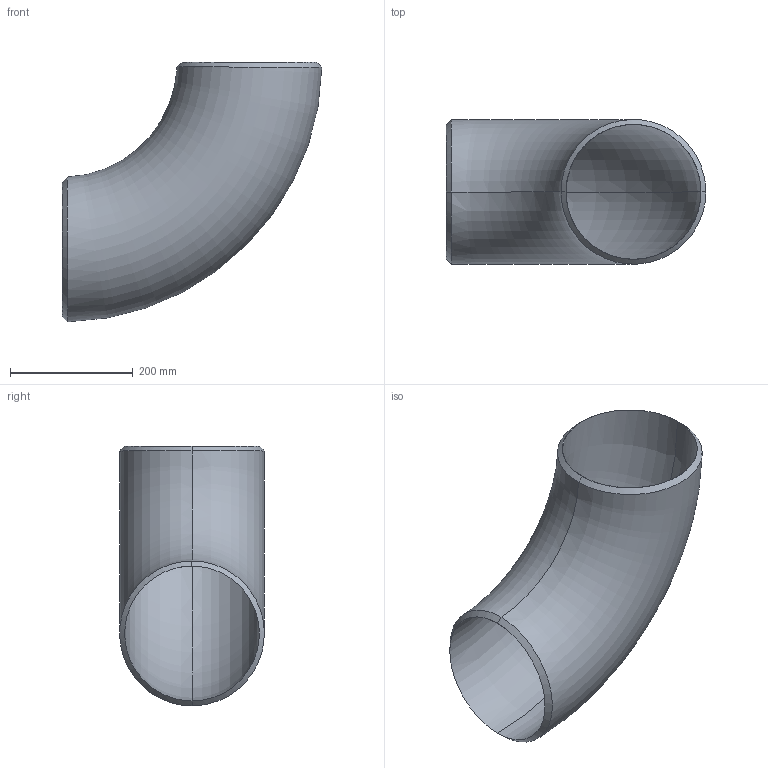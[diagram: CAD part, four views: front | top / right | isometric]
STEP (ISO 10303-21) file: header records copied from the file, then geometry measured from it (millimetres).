
FILE_DESCRIPTION (( 'STEP AP203' ), '1' );
FILE_NAME ('3D_R2651_8X40S_173421280.STEP', '2024-08-22T09:12:55', ( '' ), ( '' ), 'SwSTEP 2.0', 'SolidWorks 2024', '' );
FILE_SCHEMA (( 'CONFIG_CONTROL_DESIGN' ));
Length unit declared in the file: millimetre
Products named in the file (1): 3D_R2651_8X40S_173421280
Bounding box: 422.45 x 235.37 x 422.44 mm (x, y, z)
Volume: 2732422.5 mm3; surface area: 686989.5 mm2
Topology: 1 solids, 1 shells, 10 faces, 24 edges, 15 vertices
Faces by surface type: bspline 4, torus 4, plane 2
Entity records: 3837 total; most frequent: CARTESIAN_POINT 3558, ORIENTED_EDGE 48, DIRECTION 30, EDGE_CURVE 24, B_SPLINE_CURVE_WITH_KNOTS 16, AXIS2_PLACEMENT_3D 15, VERTEX_POINT 15, EDGE_LOOP 11
